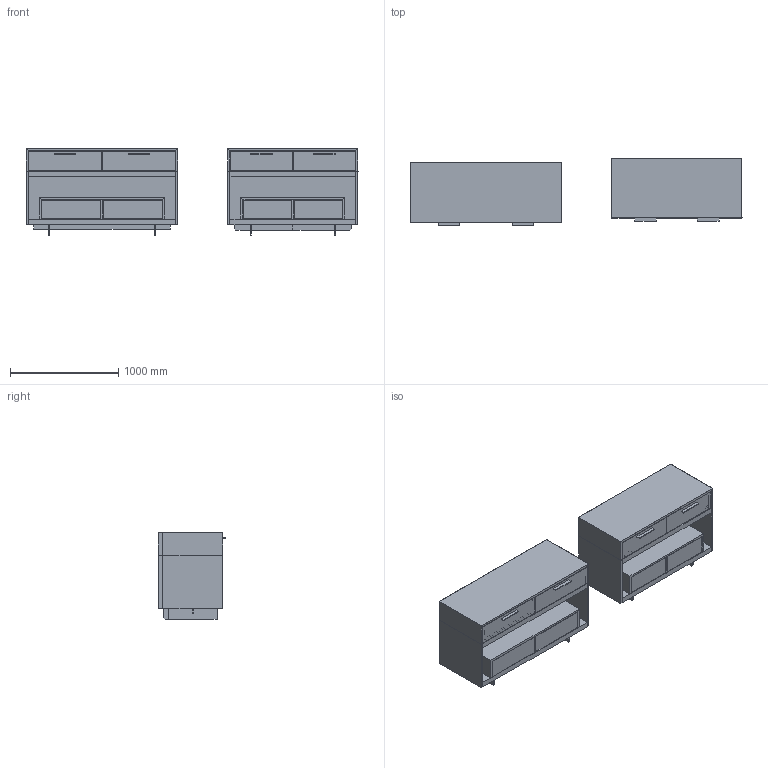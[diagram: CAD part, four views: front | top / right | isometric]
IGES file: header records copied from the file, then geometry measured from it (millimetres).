
Global section: file name: \\Archi-NAS\Comune\X GIOVANNI\SCHEDE PRODOTTO\MOBILI 3D\EXCELLENT\MOMA DESIGN_MOBILI_EXCELLENT GLASS_01.igs; native system: Rhinoceros ( Jan 17 2018 ); preprocessor: Trout Lake IGES 012 Jan 17 2018; date: 240424.085215; units: millimetre
Bounding box: 3061.27 x 622.52 x 800.09 mm (x, y, z)
Surface area: 32109772.8 mm2 (no closed solid volume)
Topology: 0 solids, 0 shells, 3294 faces, 17753 edges, 17764 vertices
Faces by surface type: bspline 3294
